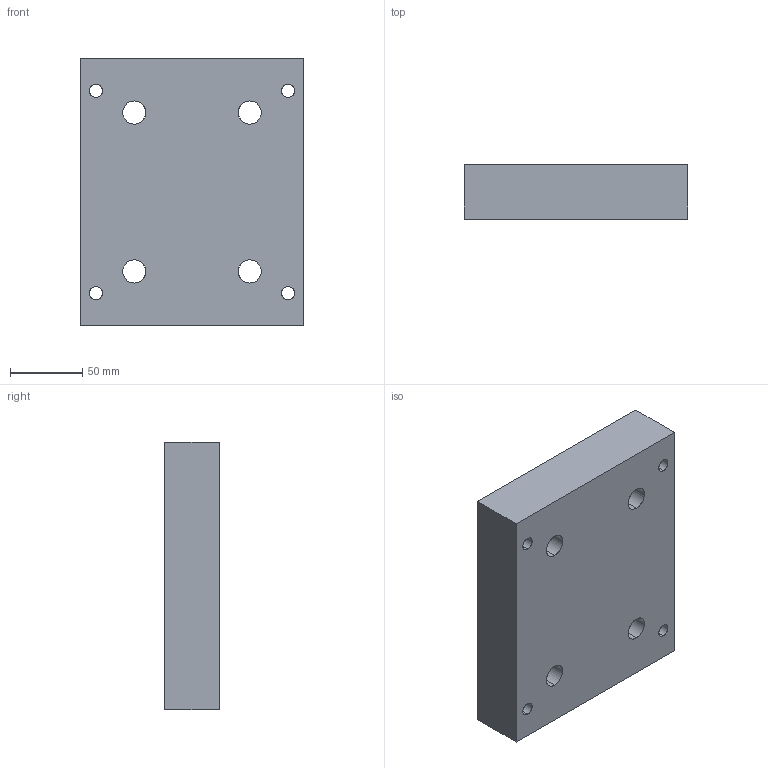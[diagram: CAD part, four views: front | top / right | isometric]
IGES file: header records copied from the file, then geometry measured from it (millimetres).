
Start section: SolidWorks IGES file using analytic representation for surfaces
Global section: file name: R:\Drawings\Files saved as other types\Solid_Models\MODELS FOR PUBLIC\ALORIS PLATE.IGS; native system: SolidWorks 2012; preprocessor: SolidWorks 2012; author: RTooley; date: 140306.110056; units: millimetre
Bounding box: 155 x 38 x 185 mm (x, y, z)
Surface area: 93474.7 mm2 (no closed solid volume)
Topology: 0 solids, 0 shells, 42 faces, 920 edges, 920 vertices
Faces by surface type: revolution 32, bspline 10
